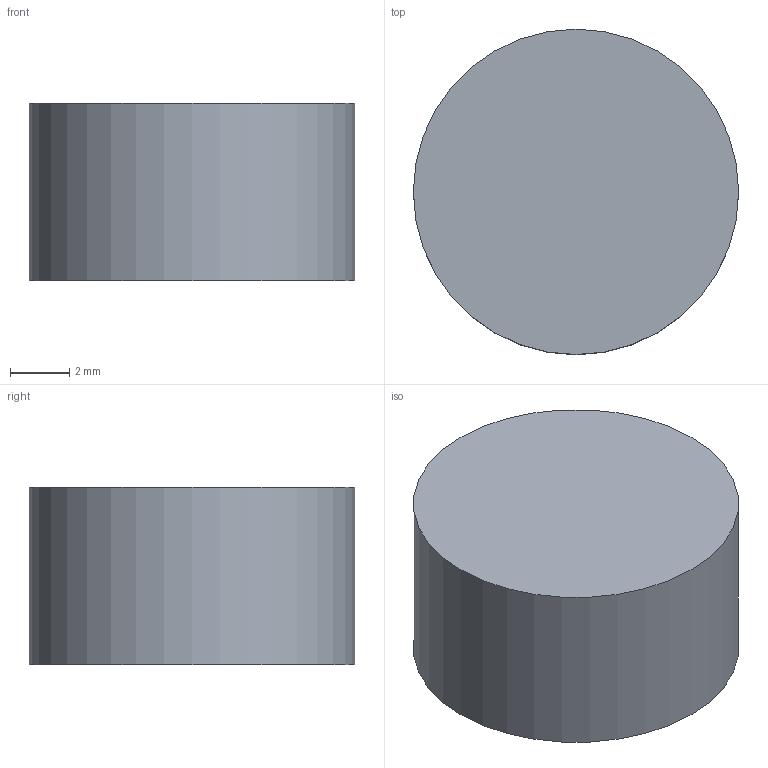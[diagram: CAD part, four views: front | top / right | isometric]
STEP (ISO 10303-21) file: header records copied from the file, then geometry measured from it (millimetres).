
FILE_DESCRIPTION(('Open CASCADE Model'),'2;1');
FILE_NAME('Q4-502','2026-10-08T13:25:58',('Author'),('Open CASCADE'), 'Open CASCADE STEP processor 8.0','build123d','Unknown');
FILE_SCHEMA(('AUTOMOTIVE_DESIGN { 1 0 10303 214 1 1 1 1 }'));
Length unit declared in the file: millimetre
Products named in the file (1): Q4-502
Bounding box: 11 x 11 x 6 mm (x, y, z)
Volume: 570.2 mm3; surface area: 397.4 mm2
Topology: 1 solids, 1 shells, 3 faces, 3 edges, 2 vertices
Faces by surface type: plane 2, cylinder 1
Full cylindrical faces by diameter (mm): 11 x1
Entity records: 108 total; most frequent: DIRECTION 19, CARTESIAN_POINT 15, AXIS2_PLACEMENT_3D 6, ORIENTED_EDGE 6, PCURVE 6, DEFINITIONAL_REPRESENTATION 6, LINE 5, VECTOR 5
